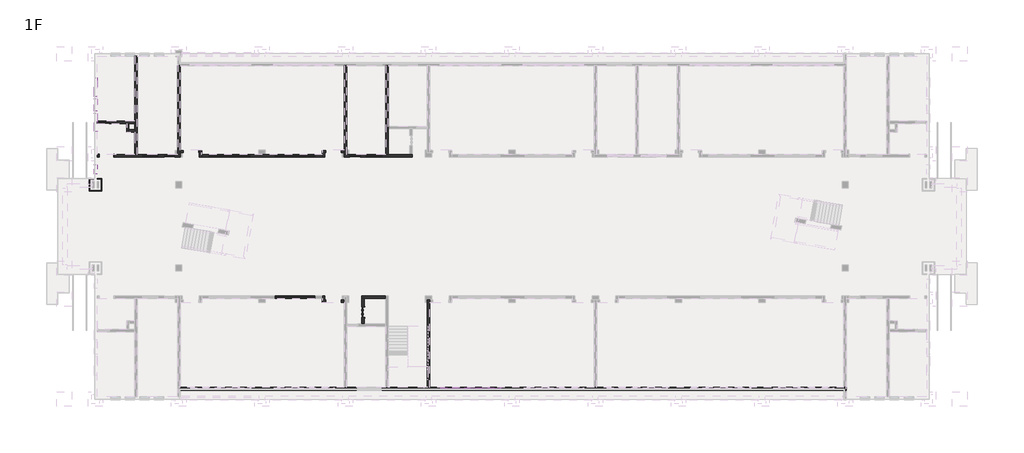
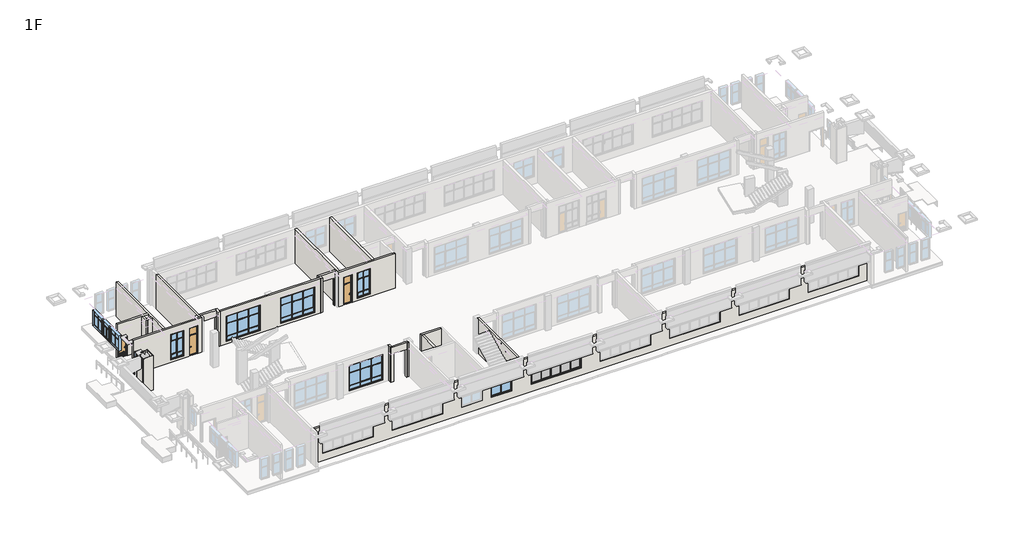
# One storey, part 2 of 16: 25 members, 25 walls, 10 windows, 8 plates, 5 doors.
"""IFC4 building model written with IfcOpenShell, lengths in millimetres."""

from ifc_helpers import new_model, si_unit, frame, origin, origin_with_axes, place, context, project, spatial, polyline, outline, extrude, faceted_brep, transform, mapped, element, save
from components import door_7422e6be, dk1_dk1_83e99b34, m2_m2_dfb05117, m2_m2_a1934b10, m3_m3_9c525ee5, member_7564be38, member_1f4d75dd, member_0b7842ad, member_163d5e45, member_ffafc35e, member_2b011958, member_9c26cac3, member_6c42befd, member_a374fdad, plate_f4dba16c, plate_1cc4df2b, plate_4fa5932a, plate_00f9c624, plate_18a10205, window_f154a97f, lc2_lc2_3adccf1d, lc4_lc4_8787b09e, lc5_lc5_223d64ff, lc5_lc5_9ec79463, lc6_lc6_03a52bd1, lc6_lc6_d9b30954, lc7_lc7_110692fb, lc7a_lc7a_17cb4d8c

model = new_model("IFC4")

# Units and contexts
model_context = context("Model", 3, world=origin())
ifc_project = project(units=[si_unit("LENGTHUNIT", "METRE", prefix="MILLI")], contexts=[model_context])

# Site, building, storey
site = spatial("IfcSite", under=ifc_project)
building = spatial("IfcBuilding", under=site)
storey = spatial("IfcBuildingStorey", under=building, Name="1F", Elevation=0.0)

# Doors
placement = place(None, origin())
door_shape = door_7422e6be(model_context)
element("IfcDoor", 1, ObjectType="FM(丙）1 : FM(丙）1", at=placement, inside=storey, context=model_context, shape_type="MappedRepresentation", body=[
    mapped(door_shape, transform((28700.0000027, 8349.6678362, 0.0), x_axis=(0.0, -1.0, 0.0), y_axis=(1.0, 0.0, 0.0), z_axis=(0.0, 0.0, 1.0))),
])
dk1_dk1_shape = dk1_dk1_83e99b34(model_context)
element("IfcDoor", 2, ObjectType="DK1 : DK1", at=placement, inside=storey, context=model_context, shape_type="MappedRepresentation", body=[
    mapped(dk1_dk1_shape, transform((4050.0, 23399.723093, 0.0), x_axis=(1.0, 0.0, 0.0), y_axis=(0.0, 1.0, 0.0), z_axis=(0.0, 0.0, 1.0))),
])
m2_m2_shape = m2_m2_dfb05117(model_context)
element("IfcDoor", 3, ObjectType="M2 : M2", at=placement, inside=storey, context=model_context, shape_type="MappedRepresentation", body=[
    mapped(m2_m2_shape, transform((27910.0000034, 23399.6954638, 0.0), x_axis=(1.0, 0.0, 0.0), y_axis=(0.0, 1.0, 0.0), z_axis=(0.0, 0.0, 1.0))),
])
m2_m2_2_shape = m2_m2_a1934b10(model_context)
element("IfcDoor", 4, ObjectType="M2 : M2", at=placement, inside=storey, context=model_context, shape_type="MappedRepresentation", body=[
    mapped(m2_m2_2_shape, transform((10109.9999985, 23399.723093, 0.0), x_axis=(-1.0, 0.0, 0.0), y_axis=(0.0, -1.0, 0.0), z_axis=(0.0, 0.0, 1.0))),
])
m3_m3_shape = m3_m3_9c525ee5(model_context)
element("IfcDoor", 5, ObjectType="M3 : M3", at=placement, inside=storey, context=model_context, shape_type="MappedRepresentation", body=[
    mapped(m3_m3_shape, transform((3809.9999978, 26599.2230983, 0.0), x_axis=(1.0, 0.0, 0.0), y_axis=(0.0, 1.0, 0.0), z_axis=(0.0, 0.0, 1.0))),
])

# Members
member_shape = member_7564be38(model_context)
element("IfcMember", 6, ObjectType="矩形竖梃 : 教学楼 – 矩形竖梃 – 100x150mm", at=placement, inside=storey, context=model_context, shape_type="MappedRepresentation", body=[
    mapped(member_shape, transform((41909.9999978, 1000.0, 3400.0), x_axis=(0.0, 0.0, 1.0), y_axis=(0.0, -1.0, 0.0), z_axis=(1.0, 0.0, 0.0))),
])
element("IfcMember", 7, ObjectType="矩形竖梃 : 教学楼 – 矩形竖梃 – 100x150mm", at=placement, inside=storey, context=model_context, shape_type="MappedRepresentation", body=[
    mapped(member_shape, transform((36109.9999978, 1000.0, 900.0), x_axis=(0.0, 0.0, -1.0), y_axis=(0.0, -1.0, 0.0), z_axis=(-1.0, 0.0, 0.0))),
])
member_2_shape = member_1f4d75dd(model_context)
element("IfcMember", 8, ObjectType="矩形竖梃 : 教学楼 – 矩形竖梃 – 50x150mm", at=placement, inside=storey, context=model_context, shape_type="MappedRepresentation", body=[
    mapped(member_2_shape, transform((38459.9999978, 1000.0, 1000.0), x_axis=(1.0, 0.0, 0.0), y_axis=(0.0, -1.0, 0.0), z_axis=(0.0, 0.0, -1.0))),
])
element("IfcMember", 9, ObjectType="矩形竖梃 : 教学楼 – 矩形竖梃 – 50x150mm", at=placement, inside=storey, context=model_context, shape_type="MappedRepresentation", body=[
    mapped(member_2_shape, transform((39559.9999978, 1000.0, 1000.0), x_axis=(1.0, 0.0, 0.0), y_axis=(0.0, -1.0, 0.0), z_axis=(0.0, 0.0, -1.0))),
])
member_3_shape = member_0b7842ad(model_context)
element("IfcMember", 10, ObjectType="矩形竖梃 : 教学楼 – 矩形竖梃 – 50x150mm", at=placement, inside=storey, context=model_context, shape_type="MappedRepresentation", body=[
    mapped(member_3_shape, transform((37309.9999978, 1000.0, 2450.0), x_axis=(0.0, 0.0, 1.0), y_axis=(0.0, -1.0, 0.0), z_axis=(1.0, 0.0, 0.0))),
])
member_4_shape = member_163d5e45(model_context)
element("IfcMember", 11, ObjectType="矩形竖梃 : 教学楼 – 矩形竖梃 – 50x150mm", at=placement, inside=storey, context=model_context, shape_type="MappedRepresentation", body=[
    mapped(member_4_shape, transform((38459.9999978, 1000.0, 2450.0), x_axis=(0.0, 0.0, 1.0), y_axis=(0.0, -1.0, 0.0), z_axis=(1.0, 0.0, 0.0))),
])
element("IfcMember", 12, ObjectType="矩形竖梃 : 教学楼 – 矩形竖梃 – 50x150mm", at=placement, inside=storey, context=model_context, shape_type="MappedRepresentation", body=[
    mapped(member_4_shape, transform((40709.9999978, 1000.0, 2450.0), x_axis=(0.0, 0.0, 1.0), y_axis=(0.0, -1.0, 0.0), z_axis=(1.0, 0.0, 0.0))),
])
element("IfcMember", 13, ObjectType="矩形竖梃 : 教学楼 – 矩形竖梃 – 50x150mm", at=placement, inside=storey, context=model_context, shape_type="MappedRepresentation", body=[
    mapped(member_3_shape, transform((39559.9999978, 1000.0, 2450.0), x_axis=(0.0, 0.0, 1.0), y_axis=(0.0, -1.0, 0.0), z_axis=(1.0, 0.0, 0.0))),
])
element("IfcMember", 14, ObjectType="矩形竖梃 : 教学楼 – 矩形竖梃 – 50x150mm", at=placement, inside=storey, context=model_context, shape_type="MappedRepresentation", body=[
    mapped(member_3_shape, transform((41809.9999978, 1000.0, 2450.0), x_axis=(0.0, 0.0, 1.0), y_axis=(0.0, -1.0, 0.0), z_axis=(1.0, 0.0, 0.0))),
])
member_5_shape = member_ffafc35e(model_context)
element("IfcMember", 15, ObjectType="矩形竖梃 : 教学楼 – 矩形竖梃 – 100x150mm", at=placement, inside=storey, context=model_context, shape_type="MappedRepresentation", body=[
    mapped(member_5_shape, transform((37309.9999978, 1000.0, 900.0), x_axis=(0.0, 0.0, -1.0), y_axis=(0.0, -1.0, 0.0), z_axis=(-1.0, 0.0, 0.0))),
])
member_6_shape = member_2b011958(model_context)
element("IfcMember", 16, ObjectType="矩形竖梃 : 教学楼 – 矩形竖梃 – 100x150mm", at=placement, inside=storey, context=model_context, shape_type="MappedRepresentation", body=[
    mapped(member_6_shape, transform((38459.9999978, 1000.0, 900.0), x_axis=(0.0, 0.0, -1.0), y_axis=(0.0, -1.0, 0.0), z_axis=(-1.0, 0.0, 0.0))),
])
element("IfcMember", 17, ObjectType="矩形竖梃 : 教学楼 – 矩形竖梃 – 100x150mm", at=placement, inside=storey, context=model_context, shape_type="MappedRepresentation", body=[
    mapped(member_5_shape, transform((39559.9999978, 1000.0, 900.0), x_axis=(0.0, 0.0, -1.0), y_axis=(0.0, -1.0, 0.0), z_axis=(-1.0, 0.0, 0.0))),
])
element("IfcMember", 18, ObjectType="矩形竖梃 : 教学楼 – 矩形竖梃 – 100x150mm", at=placement, inside=storey, context=model_context, shape_type="MappedRepresentation", body=[
    mapped(member_shape, transform((40709.9999978, 1000.0, 900.0), x_axis=(0.0, 0.0, -1.0), y_axis=(0.0, -1.0, 0.0), z_axis=(-1.0, 0.0, 0.0))),
])
element("IfcMember", 19, ObjectType="矩形竖梃 : 教学楼 – 矩形竖梃 – 100x150mm", at=placement, inside=storey, context=model_context, shape_type="MappedRepresentation", body=[
    mapped(member_shape, transform((37309.9999978, 1000.0, 3400.0), x_axis=(0.0, 0.0, 1.0), y_axis=(0.0, -1.0, 0.0), z_axis=(1.0, 0.0, 0.0))),
])
element("IfcMember", 20, ObjectType="矩形竖梃 : 教学楼 – 矩形竖梃 – 100x150mm", at=placement, inside=storey, context=model_context, shape_type="MappedRepresentation", body=[
    mapped(member_5_shape, transform((38459.9999978, 1000.0, 3400.0), x_axis=(0.0, 0.0, 1.0), y_axis=(0.0, -1.0, 0.0), z_axis=(1.0, 0.0, 0.0))),
])
element("IfcMember", 21, ObjectType="矩形竖梃 : 教学楼 – 矩形竖梃 – 100x150mm", at=placement, inside=storey, context=model_context, shape_type="MappedRepresentation", body=[
    mapped(member_5_shape, transform((40709.9999978, 1000.0, 3400.0), x_axis=(0.0, 0.0, 1.0), y_axis=(0.0, -1.0, 0.0), z_axis=(1.0, 0.0, 0.0))),
])
element("IfcMember", 22, ObjectType="矩形竖梃 : 教学楼 – 矩形竖梃 – 100x150mm", at=placement, inside=storey, context=model_context, shape_type="MappedRepresentation", body=[
    mapped(member_6_shape, transform((39559.9999978, 1000.0, 3400.0), x_axis=(0.0, 0.0, 1.0), y_axis=(0.0, -1.0, 0.0), z_axis=(1.0, 0.0, 0.0))),
])
member_7_shape = member_9c26cac3(model_context)
element("IfcMember", 23, ObjectType="矩形竖梃 : 教学楼 – 矩形竖梃 – 50x150mm", at=placement, inside=storey, context=model_context, shape_type="MappedRepresentation", body=[
    mapped(member_7_shape, transform((37309.9999978, 1000.0, 2475.0), x_axis=(1.0, 0.0, 0.0), y_axis=(0.0, -1.0, 0.0), z_axis=(0.0, 0.0, -1.0))),
])
element("IfcMember", 24, ObjectType="矩形竖梃 : 教学楼 – 矩形竖梃 – 50x150mm", at=placement, inside=storey, context=model_context, shape_type="MappedRepresentation", body=[
    mapped(member_7_shape, transform((38459.9999978, 1000.0, 2475.0), x_axis=(1.0, 0.0, 0.0), y_axis=(0.0, -1.0, 0.0), z_axis=(0.0, 0.0, -1.0))),
])
element("IfcMember", 25, ObjectType="矩形竖梃 : 教学楼 – 矩形竖梃 – 50x150mm", at=placement, inside=storey, context=model_context, shape_type="MappedRepresentation", body=[
    mapped(member_7_shape, transform((39559.9999978, 1000.0, 2475.0), x_axis=(1.0, 0.0, 0.0), y_axis=(0.0, -1.0, 0.0), z_axis=(0.0, 0.0, -1.0))),
])
element("IfcMember", 26, ObjectType="矩形竖梃 : 教学楼 – 矩形竖梃 – 50x150mm", at=placement, inside=storey, context=model_context, shape_type="MappedRepresentation", body=[
    mapped(member_7_shape, transform((40709.9999978, 1000.0, 2475.0), x_axis=(1.0, 0.0, 0.0), y_axis=(0.0, -1.0, 0.0), z_axis=(0.0, 0.0, -1.0))),
])
member_8_shape = member_6c42befd(model_context)
element("IfcMember", 27, ObjectType="矩形竖梃 : 教学楼 – 矩形竖梃 – 100x150mm", at=placement, inside=storey, context=model_context, shape_type="MappedRepresentation", body=[
    mapped(member_8_shape, transform((36109.9999978, 1000.0, 3300.0), x_axis=(-1.0, 0.0, 0.0), y_axis=(0.0, -1.0, 0.0), z_axis=(0.0, 0.0, 1.0))),
])
member_9_shape = member_a374fdad(model_context)
element("IfcMember", 28, ObjectType="矩形竖梃 : 教学楼 – 矩形竖梃 – 100x150mm", at=placement, inside=storey, context=model_context, shape_type="MappedRepresentation", body=[
    mapped(member_9_shape, transform((41909.9999978, 1000.0, 1000.0), x_axis=(1.0, 0.0, 0.0), y_axis=(0.0, -1.0, 0.0), z_axis=(0.0, 0.0, -1.0))),
])
element("IfcMember", 29, ObjectType="矩形竖梃 : 教学楼 – 矩形竖梃 – 100x150mm", at=placement, inside=storey, context=model_context, shape_type="MappedRepresentation", body=[
    mapped(member_8_shape, transform((41909.9999978, 1000.0, 2450.0), x_axis=(1.0, 0.0, 0.0), y_axis=(0.0, -1.0, 0.0), z_axis=(0.0, 0.0, -1.0))),
])
element("IfcMember", 30, ObjectType="矩形竖梃 : 教学楼 – 矩形竖梃 – 100x150mm", at=placement, inside=storey, context=model_context, shape_type="MappedRepresentation", body=[
    mapped(member_9_shape, transform((36109.9999978, 1000.0, 2450.0), x_axis=(-1.0, 0.0, 0.0), y_axis=(0.0, -1.0, 0.0), z_axis=(0.0, 0.0, 1.0))),
])

# Plates
plate_shape = plate_f4dba16c(model_context)
element("IfcPlate", 31, ObjectType="系统嵌板 : 玻璃", at=placement, inside=storey, context=model_context, shape_type="MappedRepresentation", body=[
    mapped(plate_shape, transform((39009.9999978, 1000.0, 1000.0), x_axis=(1.0, 0.0, 0.0), y_axis=(0.0, 1.0, 0.0), z_axis=(0.0, 0.0, 1.0))),
])
plate_2_shape = plate_1cc4df2b(model_context)
element("IfcPlate", 32, ObjectType="系统嵌板 : 玻璃", at=placement, inside=storey, context=model_context, shape_type="MappedRepresentation", body=[
    mapped(plate_2_shape, transform((36747.4999978, 1000.0, 2475.0), x_axis=(1.0, 0.0, 0.0), y_axis=(0.0, 1.0, 0.0), z_axis=(0.0, 0.0, 1.0))),
])
element("IfcPlate", 33, ObjectType="系统嵌板 : 玻璃", at=placement, inside=storey, context=model_context, shape_type="MappedRepresentation", body=[
    mapped(plate_2_shape, transform((41272.4999978, 1000.0, 2475.0), x_axis=(1.0, 0.0, 0.0), y_axis=(0.0, 1.0, 0.0), z_axis=(0.0, 0.0, 1.0))),
])
plate_3_shape = plate_4fa5932a(model_context)
element("IfcPlate", 34, ObjectType="系统嵌板 : 玻璃", at=placement, inside=storey, context=model_context, shape_type="MappedRepresentation", body=[
    mapped(plate_3_shape, transform((37884.9999978, 1000.0, 2475.0), x_axis=(1.0, 0.0, 0.0), y_axis=(0.0, 1.0, 0.0), z_axis=(0.0, 0.0, 1.0))),
])
element("IfcPlate", 35, ObjectType="系统嵌板 : 玻璃", at=placement, inside=storey, context=model_context, shape_type="MappedRepresentation", body=[
    mapped(plate_3_shape, transform((40134.9999978, 1000.0, 2475.0), x_axis=(1.0, 0.0, 0.0), y_axis=(0.0, 1.0, 0.0), z_axis=(0.0, 0.0, 1.0))),
])
plate_4_shape = plate_00f9c624(model_context)
element("IfcPlate", 36, ObjectType="系统嵌板 : 玻璃", at=placement, inside=storey, context=model_context, shape_type="MappedRepresentation", body=[
    mapped(plate_4_shape, transform((39009.9999978, 1000.0, 2475.0), x_axis=(1.0, 0.0, 0.0), y_axis=(0.0, 1.0, 0.0), z_axis=(0.0, 0.0, 1.0))),
])
plate_5_shape = plate_18a10205(model_context)
element("IfcPlate", 37, ObjectType="教学楼 - 窗嵌板：双扇推拉窗 : 教学楼 - 窗嵌板：双扇推拉窗", at=placement, inside=storey, context=model_context, shape_type="MappedRepresentation", body=[
    mapped(plate_5_shape, transform((37322.4999978, 1000.0, 1000.0), x_axis=(1.0, 0.0, 0.0), y_axis=(0.0, 1.0, 0.0), z_axis=(0.0, 0.0, 1.0))),
])
element("IfcPlate", 38, ObjectType="教学楼 - 窗嵌板：双扇推拉窗 : 教学楼 - 窗嵌板：双扇推拉窗", at=placement, inside=storey, context=model_context, shape_type="MappedRepresentation", body=[
    mapped(plate_5_shape, transform((40697.4999978, 1000.0, 1000.0), x_axis=(1.0, 0.0, 0.0), y_axis=(0.0, 1.0, 0.0), z_axis=(0.0, 0.0, 1.0))),
])

# Walls
element("IfcWall", 39, ObjectType="教学楼 – 文化石外墙 – 200mm", at=placement, inside=storey, context=model_context, shape_type="Brep", body=[
    faceted_brep([(11153.0, 865.0, 0.0), (74847.0, 865.0, 0.0), (75117.0, 865.0, 0.0), (75117.0, 865.0, 4200.0), (74847.0, 865.0, 4200.0), (11153.0, 865.0, 4200.0), (68109.9999985, 865.0, 900.0), (68109.9999985, 865.0, 3400.0), (73909.9999985, 865.0, 3400.0), (73909.9999985, 865.0, 900.0), (60109.9999985, 865.0, 900.0), (60109.9999985, 865.0, 3400.0), (65909.9999985, 865.0, 3400.0), (65909.9999985, 865.0, 900.0), (52109.9999985, 865.0, 900.0), (52109.9999985, 865.0, 3400.0), (57909.9999985, 865.0, 3400.0), (57909.9999985, 865.0, 900.0), (44109.9999978, 865.0, 900.0), (44109.9999978, 865.0, 3400.0), (49909.9999978, 865.0, 3400.0), (49909.9999978, 865.0, 900.0), (36109.9999978, 865.0, 900.0), (36109.9999978, 865.0, 3400.0), (41909.9999978, 865.0, 3400.0), (41909.9999978, 865.0, 900.0), (20109.9999985, 865.0, 900.0), (20109.9999985, 865.0, 3400.0), (25909.9999985, 865.0, 3400.0), (25909.9999985, 865.0, 900.0), (12109.9999985, 865.0, 900.0), (12109.9999985, 865.0, 3400.0), (17909.9999985, 865.0, 3400.0), (17909.9999985, 865.0, 900.0), (31509.9999978, 865.0, 900.0), (31509.9999978, 865.0, 3400.0), (33909.9999978, 865.0, 3400.0), (33909.9999978, 865.0, 900.0), (30509.9999978, 865.0, 3400.0), (30509.9999978, 865.0, 900.0), (28109.9999978, 865.0, 900.0), (28109.9999978, 865.0, 3400.0), (75117.0, 1135.0, 0.0), (74883.0, 1135.0, 0.0), (51117.0, 1135.0, 0.0), (50883.0, 1135.0, 0.0), (35117.0, 1135.0, 0.0), (34883.0, 1135.0, 0.0), (31117.0000029, 1135.0, 0.0), (30883.0000029, 1135.0, 0.0), (27117.0, 1135.0, 0.0), (26883.0, 1135.0, 0.0), (11153.0, 1135.0, 0.0), (11153.0, 1135.0, 4200.0), (26883.0, 1135.0, 4200.0), (27117.0, 1135.0, 4200.0), (30883.0000029, 1135.0, 4200.0), (31117.0000029, 1135.0, 4200.0), (34883.0, 1135.0, 4200.0), (35117.0, 1135.0, 4200.0), (50883.0, 1135.0, 4200.0), (51117.0, 1135.0, 4200.0), (74883.0, 1135.0, 4200.0), (75117.0, 1135.0, 4200.0), (68109.9999985, 1135.0, 3400.0), (68109.9999985, 1135.0, 900.0), (73909.9999985, 1135.0, 900.0), (73909.9999985, 1135.0, 3400.0), (60109.9999985, 1135.0, 3400.0), (60109.9999985, 1135.0, 900.0), (65909.9999985, 1135.0, 900.0), (65909.9999985, 1135.0, 3400.0), (52109.9999985, 1135.0, 3400.0), (52109.9999985, 1135.0, 900.0), (57909.9999985, 1135.0, 900.0), (57909.9999985, 1135.0, 3400.0), (44109.9999978, 1135.0, 3400.0), (44109.9999978, 1135.0, 900.0), (49909.9999978, 1135.0, 900.0), (49909.9999978, 1135.0, 3400.0), (36109.9999978, 1135.0, 3400.0), (36109.9999978, 1135.0, 900.0), (41909.9999978, 1135.0, 900.0), (41909.9999978, 1135.0, 3400.0), (20109.9999985, 1135.0, 3400.0), (20109.9999985, 1135.0, 900.0), (25909.9999985, 1135.0, 900.0), (25909.9999985, 1135.0, 3400.0), (12109.9999985, 1135.0, 3400.0), (12109.9999985, 1135.0, 900.0), (17909.9999985, 1135.0, 900.0), (17909.9999985, 1135.0, 3400.0), (31509.9999978, 1135.0, 3400.0), (31509.9999978, 1135.0, 900.0), (33909.9999978, 1135.0, 900.0), (33909.9999978, 1135.0, 3400.0), (30509.9999978, 1135.0, 900.0), (30509.9999978, 1135.0, 3400.0), (28109.9999978, 1135.0, 3400.0), (28109.9999978, 1135.0, 900.0)], [[[0, 1, 2, 3, 4, 5], [6, 7, 8, 9], [10, 11, 12, 13], [14, 15, 16, 17], [18, 19, 20, 21], [22, 23, 24, 25], [26, 27, 28, 29], [30, 31, 32, 33], [34, 35, 36, 37], [38, 39, 40, 41]], [[42, 43, 44, 45, 46, 47, 48, 49, 50, 51, 52, 53, 54, 55, 56, 57, 58, 59, 60, 61, 62, 63], [64, 65, 66, 67], [68, 69, 70, 71], [72, 73, 74, 75], [76, 77, 78, 79], [80, 81, 82, 83], [84, 85, 86, 87], [88, 89, 90, 91], [92, 93, 94, 95], [96, 97, 98, 99]], [[2, 1, 0, 52, 51, 50, 49, 48, 47, 46, 45, 44, 43, 42]], [[5, 4, 3, 63, 62, 61, 60, 59, 58, 57, 56, 55, 54, 53]], [[0, 5, 53, 52]], [[3, 2, 42, 63]], [[6, 65, 64, 7]], [[7, 64, 67, 8]], [[8, 67, 66, 9]], [[65, 6, 9, 66]], [[10, 69, 68, 11]], [[11, 68, 71, 12]], [[12, 71, 70, 13]], [[69, 10, 13, 70]], [[14, 73, 72, 15]], [[15, 72, 75, 16]], [[16, 75, 74, 17]], [[73, 14, 17, 74]], [[18, 77, 76, 19]], [[19, 76, 79, 20]], [[20, 79, 78, 21]], [[77, 18, 21, 78]], [[22, 81, 80, 23]], [[23, 80, 83, 24]], [[24, 83, 82, 25]], [[81, 22, 25, 82]], [[26, 85, 84, 27]], [[27, 84, 87, 28]], [[28, 87, 86, 29]], [[85, 26, 29, 86]], [[30, 89, 88, 31]], [[31, 88, 91, 32]], [[32, 91, 90, 33]], [[89, 30, 33, 90]], [[35, 34, 93, 92]], [[36, 35, 92, 95]], [[37, 36, 95, 94]], [[34, 37, 94, 93]], [[97, 96, 39, 38]], [[98, 97, 38, 41]], [[99, 98, 41, 40]], [[96, 99, 40, 39]]]),
])
element("IfcWall", 40, ObjectType="教学楼 – 涂料内墙 – 200mm", at=placement, inside=storey, context=model_context, shape_type="Brep", body=[
    faceted_brep([(10883.0, 32065.0, 0.0), (10883.0, 23916.723093, 0.0), (10883.0, 23516.723093, 0.0), (10883.0, 23516.723093, 4200.0), (10883.0, 23916.723093, 4200.0), (10883.0, 32065.0, 4200.0), (11117.0, 32065.0, 0.0), (11117.0, 32065.0, 4200.0), (11117.0, 23916.7231012, 4200.0), (11117.0, 23682.7231012, 4200.0), (11117.0, 23516.723093, 4200.0), (11117.0, 23516.723093, 0.0), (11117.0, 23682.7231012, 0.0), (11117.0, 23916.7231012, 0.0)], [[[0, 1, 2, 3, 4, 5]], [[6, 7, 8, 9, 10, 11, 12, 13]], [[2, 1, 0, 6, 13, 12, 11]], [[5, 4, 3, 10, 9, 8, 7]], [[0, 5, 7, 6]], [[3, 2, 11, 10]]]),
])
element("IfcWall", 41, ObjectType="教学楼 – 涂料内墙 – 200mm", at=placement, inside=storey, context=model_context, shape_type="Brep", body=[
    faceted_brep([(6783.0000003, 32982.6954639, 0.0), (6783.0000003, 26716.2230983, 0.0), (6783.0000003, 26482.2230983, 0.0), (6783.0000003, 25916.2231012, 0.0), (6783.0000003, 25682.2231012, 0.0), (6783.0000003, 23516.723093, 0.0), (6783.0000003, 23516.723093, 4200.0), (6783.0000003, 25682.2231012, 4200.0), (6783.0000003, 25916.2231012, 4200.0), (6783.0000003, 26482.2230983, 4200.0), (6783.0000003, 26716.2230983, 4200.0), (6783.0000003, 32982.6954639, 4200.0), (7017.0000003, 32982.6954639, 0.0), (7017.0000003, 32982.6954639, 4200.0), (7017.0000003, 23516.723093, 4200.0), (7017.0000003, 23516.723093, 0.0)], [[[0, 1, 2, 3, 4, 5, 6, 7, 8, 9, 10, 11]], [[12, 13, 14, 15]], [[5, 4, 3, 2, 1, 0, 12, 15]], [[11, 10, 9, 8, 7, 6, 14, 13]], [[6, 5, 15, 14]], [[0, 11, 13, 12]]]),
])
element("IfcWall", 42, ObjectType="教学楼 – 涂料内墙 – 200mm", at=placement, inside=storey, context=model_context, shape_type="Brep", body=[
    faceted_brep([(26883.0, 32065.0, 0.0), (26883.0, 23917.0, 0.0), (26883.0, 23916.7231007, 0.0), (26883.0, 23682.7231007, 0.0), (26883.0, 23516.6954638, 0.0), (26883.0, 23516.6954638, 4200.0), (26883.0, 23682.7231007, 4200.0), (26883.0, 23916.7231007, 4200.0), (26883.0, 23917.0, 4200.0), (26883.0, 32065.0, 4200.0), (27117.0, 32065.0, 0.0), (27117.0, 32065.0, 4200.0), (27117.0, 23917.0, 4200.0), (27117.0, 23516.6954638, 4200.0), (27117.0, 23516.6954638, 0.0), (27117.0, 23917.0, 0.0)], [[[0, 1, 2, 3, 4, 5, 6, 7, 8, 9]], [[10, 11, 12, 13, 14, 15]], [[4, 3, 2, 1, 0, 10, 15, 14]], [[9, 8, 7, 6, 5, 13, 12, 11]], [[5, 4, 14, 13]], [[0, 9, 11, 10]]]),
])
element("IfcWall", 43, ObjectType="教学楼 – 涂料内墙 – 200mm", at=placement, inside=storey, context=model_context, shape_type="Brep", body=[
    faceted_brep([(30883.0000029, 32065.0, 0.0), (30883.0000029, 23516.6954638, 0.0), (30883.0000029, 23516.6954638, 4200.0), (30883.0000029, 32065.0, 4200.0), (31117.0000029, 32065.0, 0.0), (31117.0000029, 32065.0, 4200.0), (31117.0000029, 26216.6954638, 4200.0), (31117.0000029, 25982.6954638, 4200.0), (31117.0000029, 23516.6954638, 4200.0), (31117.0000029, 23516.6954638, 0.0), (31117.0000029, 25982.6954638, 0.0), (31117.0000029, 26216.6954638, 0.0)], [[[0, 1, 2, 3]], [[4, 5, 6, 7, 8, 9, 10, 11]], [[1, 0, 4, 11, 10, 9]], [[3, 2, 8, 7, 6, 5]], [[2, 1, 9, 8]], [[0, 3, 5, 4]]]),
])
element("IfcWall", 44, ObjectType="教学楼 – 涂料内墙 – 200mm", at=placement, inside=storey, context=model_context, shape_type="Brep", body=[
    faceted_brep([(33417.0000031, 23282.6954638, 4200.0), (26883.0, 23282.6954638, 4200.0), (26883.0, 23282.6954638, 0.0), (27410.0000034, 23282.6954638, 0.0), (27410.0000034, 23282.6954638, 3400.0), (28410.0000034, 23282.6954638, 3400.0), (28410.0000034, 23282.6954638, 0.0), (33417.0000031, 23282.6954638, 0.0), (30509.9999997, 23282.6954638, 3400.0), (30509.9999997, 23282.6954638, 300.0), (29009.9999997, 23282.6954638, 300.0), (29009.9999997, 23282.6954638, 3400.0), (26883.0, 23516.6954638, 4200.0), (27117.0, 23516.6954638, 4200.0), (27317.0, 23516.6954638, 4200.0), (30883.0000029, 23516.6954638, 4200.0), (31117.0000029, 23516.6954638, 4200.0), (33183.0000031, 23516.6954638, 4200.0), (33417.0000031, 23516.6954638, 4200.0), (33417.0000031, 23516.6954638, 0.0), (33183.0000031, 23516.6954638, 0.0), (31117.0000029, 23516.6954638, 0.0), (30883.0000029, 23516.6954638, 0.0), (28410.0000034, 23516.6954638, 0.0), (28410.0000034, 23516.6954638, 3400.0), (27410.0000034, 23516.6954638, 3400.0), (27410.0000034, 23516.6954638, 0.0), (27317.0, 23516.6954638, 0.0), (27117.0, 23516.6954638, 0.0), (26883.0, 23516.6954638, 0.0), (30509.9999997, 23516.6954638, 300.0), (30509.9999997, 23516.6954638, 3400.0), (29009.9999997, 23516.6954638, 3400.0), (29009.9999997, 23516.6954638, 300.0), (26883.0, 23283.0, 0.0), (26883.0, 23283.0, 4200.0)], [[[0, 1, 2, 3, 4, 5, 6, 7], [8, 9, 10, 11]], [[12, 13, 14, 15, 16, 17, 18, 19, 20, 21, 22, 23, 24, 25, 26, 27, 28, 29], [30, 31, 32, 33]], [[19, 7, 6, 23, 22, 21, 20]], [[2, 34, 29, 28, 27, 26, 3]], [[1, 0, 18, 17, 16, 15, 14, 13, 12, 35]], [[0, 7, 19, 18]], [[2, 1, 35, 12, 29, 34]], [[31, 30, 9, 8]], [[32, 31, 8, 11]], [[33, 32, 11, 10]], [[30, 33, 10, 9]], [[5, 24, 23, 6]], [[24, 5, 4, 25]], [[25, 4, 3, 26]]]),
])
element("IfcWall", 45, ObjectType="教学楼 – 涂料内墙 – 200mm", at=placement, inside=storey, context=model_context, shape_type="Brep", body=[
    faceted_brep([(24782.9999964, 23916.7231007, 4200.0), (26683.0, 23916.7231007, 4200.0), (26883.0, 23916.7231007, 4200.0), (26883.0, 23916.7231007, 0.0), (26683.0, 23916.7231007, 0.0), (26609.9999954, 23916.7231007, 0.0), (26609.9999954, 23916.7231007, 3400.0), (25109.9999954, 23916.7231007, 3400.0), (25109.9999954, 23916.7231007, 0.0), (24782.9999964, 23916.7231007, 0.0), (26883.0, 23682.7231007, 4200.0), (26683.0, 23682.7231007, 4200.0), (25016.9999964, 23682.7231007, 4200.0), (24782.9999964, 23682.7231007, 4200.0), (24782.9999964, 23682.7231007, 0.0), (25016.9999964, 23682.7231007, 0.0), (25109.9999954, 23682.7231007, 0.0), (25109.9999954, 23682.7231007, 3400.0), (26609.9999954, 23682.7231007, 3400.0), (26609.9999954, 23682.7231007, 0.0), (26683.0, 23682.7231007, 0.0), (26883.0, 23682.7231007, 0.0)], [[[0, 1, 2, 3, 4, 5, 6, 7, 8, 9]], [[10, 11, 12, 13, 14, 15, 16, 17, 18, 19, 20, 21]], [[14, 9, 8, 16, 15]], [[3, 21, 20, 19, 5, 4]], [[2, 1, 0, 13, 12, 11, 10]], [[0, 9, 14, 13]], [[3, 2, 10, 21]], [[7, 17, 16, 8]], [[17, 7, 6, 18]], [[18, 6, 5, 19]]]),
])
element("IfcWall", 46, ObjectType="教学楼 – 涂料内墙 – 200mm", at=placement, inside=storey, context=model_context, shape_type="Brep", body=[
    faceted_brep([(24782.9999964, 23682.7231007, 0.0), (24782.9999964, 23516.6954641, 0.0), (24782.9999964, 23282.6954641, 0.0), (24782.9999964, 23282.6954641, 4200.0), (24782.9999964, 23516.6954641, 4200.0), (24782.9999964, 23682.7231007, 4200.0), (25016.9999964, 23682.7231007, 0.0), (25016.9999964, 23682.7231007, 4200.0), (25016.9999964, 23282.6954641, 4200.0), (25016.9999964, 23282.6954641, 0.0)], [[[0, 1, 2, 3, 4, 5]], [[6, 7, 8, 9]], [[2, 1, 0, 6, 9]], [[5, 4, 3, 8, 7]], [[0, 5, 7, 6]], [[3, 2, 9, 8]]]),
])
element("IfcWall", 47, ObjectType="教学楼 – 涂料内墙 – 200mm", at=placement, inside=storey, context=model_context, shape_type="Brep", body=[
    faceted_brep([(24782.9999964, 23516.6954641, 0.0), (19317.0, 23516.6954641, 0.0), (18683.0, 23516.6954641, 0.0), (13216.9999996, 23516.6954641, 0.0), (13216.9999996, 23516.6954641, 4200.0), (18683.0, 23516.6954641, 4200.0), (19317.0, 23516.6954641, 4200.0), (24782.9999964, 23516.6954641, 4200.0), (24109.9999995, 23516.6954641, 300.0), (24109.9999995, 23516.6954641, 3400.0), (20209.9999995, 23516.6954641, 3400.0), (20209.9999995, 23516.6954641, 300.0), (17809.9999995, 23516.6954641, 300.0), (17809.9999995, 23516.6954641, 3400.0), (13909.9999995, 23516.6954641, 3400.0), (13909.9999995, 23516.6954641, 300.0), (24782.9999964, 23282.6954641, 0.0), (24782.9999964, 23282.6954641, 4200.0), (13216.9999996, 23282.6954641, 4200.0), (13216.9999996, 23282.6954641, 0.0), (24109.9999995, 23282.6954641, 300.0), (20209.9999995, 23282.6954641, 300.0), (20209.9999995, 23282.6954641, 3400.0), (24109.9999995, 23282.6954641, 3400.0), (17809.9999995, 23282.6954641, 300.0), (13909.9999995, 23282.6954641, 300.0), (13909.9999995, 23282.6954641, 3400.0), (17809.9999995, 23282.6954641, 3400.0)], [[[0, 1, 2, 3, 4, 5, 6, 7], [8, 9, 10, 11], [12, 13, 14, 15]], [[16, 17, 18, 19], [20, 21, 22, 23], [24, 25, 26, 27]], [[3, 2, 1, 0, 16, 19]], [[7, 6, 5, 4, 18, 17]], [[0, 7, 17, 16]], [[4, 3, 19, 18]], [[9, 8, 20, 23]], [[10, 9, 23, 22]], [[11, 10, 22, 21]], [[8, 11, 21, 20]], [[13, 12, 24, 27]], [[14, 13, 27, 26]], [[15, 14, 26, 25]], [[12, 15, 25, 24]]]),
])
element("IfcWall", 48, ObjectType="教学楼 – 涂料内墙 – 200mm", at=placement, inside=storey, context=model_context, shape_type="Brep", body=[
    faceted_brep([(13216.9999996, 23282.6954641, 0.0), (13216.9999996, 23516.6954641, 0.0), (13216.9999996, 23916.7231012, 0.0), (13216.9999996, 23916.7231012, 4200.0), (13216.9999996, 23516.6954641, 4200.0), (13216.9999996, 23282.6954641, 4200.0), (12982.9999996, 23282.6954641, 0.0), (12982.9999996, 23282.6954641, 4200.0), (12982.9999996, 23682.7231012, 4200.0), (12982.9999996, 23916.7231012, 4200.0), (12982.9999996, 23916.7231012, 0.0), (12982.9999996, 23682.7231012, 0.0)], [[[0, 1, 2, 3, 4, 5]], [[6, 7, 8, 9, 10, 11]], [[2, 1, 0, 6, 11, 10]], [[5, 4, 3, 9, 8, 7]], [[3, 2, 10, 9]], [[0, 5, 7, 6]]]),
])
element("IfcWall", 49, ObjectType="教学楼 – 涂料内墙 – 200mm", at=placement, inside=storey, context=model_context, shape_type="Brep", body=[
    faceted_brep([(11117.0, 23916.7231012, 4200.0), (12982.9999996, 23916.7231012, 4200.0), (12982.9999996, 23916.7231012, 0.0), (12909.9999995, 23916.7231012, 0.0), (12909.9999995, 23916.7231012, 3400.0), (11409.9999995, 23916.7231012, 3400.0), (11409.9999995, 23916.7231012, 0.0), (11117.0, 23916.7231012, 0.0), (12982.9999996, 23682.7231012, 4200.0), (11317.0, 23682.7231012, 4200.0), (11117.0, 23682.7231012, 4200.0), (11117.0, 23682.7231012, 0.0), (11317.0, 23682.7231012, 0.0), (11409.9999995, 23682.7231012, 0.0), (11409.9999995, 23682.7231012, 3400.0), (12909.9999995, 23682.7231012, 3400.0), (12909.9999995, 23682.7231012, 0.0), (12982.9999996, 23682.7231012, 0.0)], [[[0, 1, 2, 3, 4, 5, 6, 7]], [[8, 9, 10, 11, 12, 13, 14, 15, 16, 17]], [[2, 17, 16, 3]], [[11, 7, 6, 13, 12]], [[1, 0, 10, 9, 8]], [[2, 1, 8, 17]], [[0, 7, 11, 10]], [[5, 14, 13, 6]], [[14, 5, 4, 15]], [[15, 4, 3, 16]]]),
])
element("IfcWall", 50, ObjectType="教学楼 – 涂料内墙 – 200mm", at=placement, inside=storey, context=model_context, shape_type="Brep", body=[
    faceted_brep([(11117.0, 23282.723093, 4200.0), (3167.0000002, 23282.723093, 4200.0), (3167.0000002, 23282.723093, 0.0), (3300.0, 23282.723093, 0.0), (3300.0, 23282.723093, 2400.0), (4800.0, 23282.723093, 2400.0), (4800.0, 23282.723093, 0.0), (9609.9999985, 23282.723093, 0.0), (9609.9999985, 23282.723093, 3400.0), (10609.9999985, 23282.723093, 3400.0), (10609.9999985, 23282.723093, 0.0), (11117.0, 23282.723093, 0.0), (7510.0000043, 23282.723093, 300.0), (7510.0000043, 23282.723093, 3400.0), (9010.0000043, 23282.723093, 3400.0), (9010.0000043, 23282.723093, 300.0), (3167.0000002, 23516.723093, 4200.0), (3300.0, 23516.723093, 4200.0), (6783.0000003, 23516.723093, 4200.0), (7017.0000003, 23516.723093, 4200.0), (10683.0, 23516.723093, 4200.0), (10883.0, 23516.723093, 4200.0), (11117.0, 23516.723093, 4200.0), (11117.0, 23516.723093, 0.0), (10883.0, 23516.723093, 0.0), (10683.0, 23516.723093, 0.0), (10609.9999985, 23516.723093, 0.0), (10609.9999985, 23516.723093, 3400.0), (9609.9999985, 23516.723093, 3400.0), (9609.9999985, 23516.723093, 0.0), (7017.0000003, 23516.723093, 0.0), (6783.0000003, 23516.723093, 0.0), (4800.0, 23516.723093, 0.0), (4800.0, 23516.723093, 2400.0), (3300.0, 23516.723093, 2400.0), (3300.0, 23516.723093, 0.0), (3167.0000002, 23516.723093, 0.0), (7510.0000043, 23516.723093, 300.0), (9010.0000043, 23516.723093, 300.0), (9010.0000043, 23516.723093, 3400.0), (7510.0000043, 23516.723093, 3400.0), (3167.0000002, 23300.0, 0.0), (3300.0, 23300.0, 0.0)], [[[0, 1, 2, 3, 4, 5, 6, 7, 8, 9, 10, 11], [12, 13, 14, 15]], [[16, 17, 18, 19, 20, 21, 22, 23, 24, 25, 26, 27, 28, 29, 30, 31, 32, 33, 34, 35, 36], [37, 38, 39, 40]], [[23, 11, 10, 26, 25, 24]], [[6, 32, 31, 30, 29, 7]], [[2, 41, 36, 35, 42, 3]], [[1, 0, 22, 21, 20, 19, 18, 17, 16]], [[0, 11, 23, 22]], [[2, 1, 16, 36, 41]], [[5, 33, 32, 6]], [[33, 5, 4, 34]], [[34, 4, 3, 42, 35]], [[28, 8, 7, 29]], [[8, 28, 27, 9]], [[9, 27, 26, 10]], [[13, 12, 37, 40]], [[14, 13, 40, 39]], [[15, 14, 39, 38]], [[12, 15, 38, 37]]]),
])
element("IfcWall", 51, ObjectType="教学楼 – 涂料内墙 – 200mm", at=placement, inside=storey, context=model_context, shape_type="Brep", body=[
    faceted_brep([(3167.0000002, 26716.2230983, 4200.0), (6783.0000003, 26716.2230983, 4200.0), (6783.0000003, 26716.2230983, 0.0), (4309.9999978, 26716.2230983, 0.0), (4309.9999978, 26716.2230983, 2300.0), (3309.9999978, 26716.2230983, 2300.0), (3309.9999978, 26716.2230983, 0.0), (3167.0000002, 26716.2230983, 0.0), (6783.0000003, 26482.2230983, 4200.0), (6217.0000019, 26482.2230983, 4200.0), (5983.0000019, 26482.2230983, 4200.0), (3167.0000002, 26482.2230983, 4200.0), (3167.0000002, 26482.2230983, 0.0), (3309.9999978, 26482.2230983, 0.0), (3309.9999978, 26482.2230983, 2300.0), (4309.9999978, 26482.2230983, 2300.0), (4309.9999978, 26482.2230983, 0.0), (5983.0000019, 26482.2230983, 0.0), (6217.0000019, 26482.2230983, 0.0), (6783.0000003, 26482.2230983, 0.0)], [[[0, 1, 2, 3, 4, 5, 6, 7]], [[8, 9, 10, 11, 12, 13, 14, 15, 16, 17, 18, 19]], [[2, 19, 18, 17, 16, 3]], [[12, 7, 6, 13]], [[1, 0, 11, 10, 9, 8]], [[2, 1, 8, 19]], [[0, 7, 12, 11]], [[15, 4, 3, 16]], [[4, 15, 14, 5]], [[5, 14, 13, 6]]]),
])
element("IfcWall", 52, ObjectType="教学楼 – 涂料内墙 – 200mm", at=placement, inside=storey, context=model_context, shape_type="Brep", body=[
    faceted_brep([(6217.0000019, 25682.2231012, 0.0), (6217.0000019, 25916.2231012, 0.0), (6217.0000019, 26482.2230983, 0.0), (6217.0000019, 26482.2230983, 4200.0), (6217.0000019, 25916.2231012, 4200.0), (6217.0000019, 25682.2231012, 4200.0), (5983.0000019, 25682.2231012, 0.0), (5983.0000019, 25682.2231012, 4200.0), (5983.0000019, 26482.2230983, 4200.0), (5983.0000019, 26482.2230983, 0.0)], [[[0, 1, 2, 3, 4, 5]], [[6, 7, 8, 9]], [[2, 1, 0, 6, 9]], [[5, 4, 3, 8, 7]], [[0, 5, 7, 6]], [[3, 2, 9, 8]]]),
])
element("IfcWall", 53, ObjectType="教学楼 – 涂料内墙 – 200mm", at=placement, inside=storey, context=model_context, shape_type="SweptSolid", body=[
    extrude(outline(polyline([(6217.0000019, 25916.2231012), (6783.0000003, 25916.2231012), (6783.0000003, 25682.2231012), (6217.0000019, 25682.2231012), (6217.0000019, 25916.2231012)])), origin_with_axes(), (0.0, 0.0, 1.0), 4200.0),
])
element("IfcWall", 54, ObjectType="教学楼 – 涂料内墙 – 200mm", at=placement, inside=storey, context=model_context, shape_type="Brep", body=[
    faceted_brep([(35117.0, 1135.0, 0.0), (35117.0, 9283.0, 0.0), (35117.0, 9283.2768988, 0.0), (35117.0, 9517.2768988, 0.0), (35117.0, 9517.2768988, 4200.0), (35117.0, 9283.2768988, 4200.0), (35117.0, 9283.0, 4200.0), (35117.0, 1135.0, 4200.0), (34883.0, 1135.0, 0.0), (34883.0, 1135.0, 4200.0), (34883.0, 9283.0, 4200.0), (34883.0, 9517.2768988, 4200.0), (34883.0, 9517.2768988, 0.0), (34883.0, 9283.0, 0.0)], [[[0, 1, 2, 3, 4, 5, 6, 7]], [[8, 9, 10, 11, 12, 13]], [[3, 2, 1, 0, 8, 13, 12]], [[7, 6, 5, 4, 11, 10, 9]], [[4, 3, 12, 11]], [[0, 7, 9, 8]]]),
])
element("IfcWall", 55, ObjectType="教学楼 – 涂料内墙 – 200mm", at=placement, inside=storey, context=model_context, shape_type="Brep", body=[
    faceted_brep([(28583.0000027, 9683.3045362, 0.0), (28817.0000027, 9683.3045362, 0.0), (30883.0000029, 9683.3045362, 0.0), (30883.0000029, 9683.3045362, 4200.0), (28817.0000027, 9683.3045362, 4200.0), (28583.0000027, 9683.3045362, 4200.0), (28583.0000027, 9917.3045362, 0.0), (28583.0000027, 9917.3045362, 4200.0), (30883.0000029, 9917.3045362, 4200.0), (30883.0000029, 9917.3045362, 0.0)], [[[0, 1, 2, 3, 4, 5]], [[6, 7, 8, 9]], [[2, 1, 0, 6, 9]], [[5, 4, 3, 8, 7]], [[3, 2, 9, 8]], [[0, 5, 7, 6]]]),
])
element("IfcWall", 56, ObjectType="教学楼 – 涂料内墙 – 200mm", at=placement, inside=storey, context=model_context, shape_type="Brep", body=[
    faceted_brep([(24782.9999964, 9517.2768993, 4200.0), (25016.9999964, 9517.2768993, 4200.0), (26683.0, 9517.2768993, 4200.0), (26883.0, 9517.2768993, 4200.0), (26883.0, 9517.2768993, 0.0), (26683.0, 9517.2768993, 0.0), (26609.9999976, 9517.2768993, 0.0), (26609.9999976, 9517.2768993, 3400.0), (25109.9999976, 9517.2768993, 3400.0), (25109.9999976, 9517.2768993, 0.0), (25016.9999964, 9517.2768993, 0.0), (24782.9999964, 9517.2768993, 0.0), (26883.0, 9283.2768993, 4200.0), (26683.0, 9283.2768993, 4200.0), (24782.9999964, 9283.2768993, 4200.0), (24782.9999964, 9283.2768993, 0.0), (25109.9999976, 9283.2768993, 0.0), (25109.9999976, 9283.2768993, 3400.0), (26609.9999976, 9283.2768993, 3400.0), (26609.9999976, 9283.2768993, 0.0), (26683.0, 9283.2768993, 0.0), (26883.0, 9283.2768993, 0.0)], [[[0, 1, 2, 3, 4, 5, 6, 7, 8, 9, 10, 11]], [[12, 13, 14, 15, 16, 17, 18, 19, 20, 21]], [[15, 11, 10, 9, 16]], [[4, 21, 20, 19, 6, 5]], [[3, 2, 1, 0, 14, 13, 12]], [[0, 11, 15, 14]], [[4, 3, 12, 21]], [[18, 7, 6, 19]], [[7, 18, 17, 8]], [[8, 17, 16, 9]]]),
])
element("IfcWall", 57, ObjectType="教学楼 – 涂料内墙 – 200mm", at=placement, inside=storey, context=model_context, shape_type="Brep", body=[
    faceted_brep([(25016.9999964, 9517.2768993, 0.0), (25016.9999964, 9917.3045359, 0.0), (25016.9999964, 9917.3045359, 4200.0), (25016.9999964, 9517.2768993, 4200.0), (24782.9999964, 9517.2768993, 0.0), (24782.9999964, 9517.2768993, 4200.0), (24782.9999964, 9683.3045359, 4200.0), (24782.9999964, 9917.3045359, 4200.0), (24782.9999964, 9917.3045359, 0.0), (24782.9999964, 9683.3045359, 0.0)], [[[0, 1, 2, 3]], [[4, 5, 6, 7, 8, 9]], [[1, 0, 4, 9, 8]], [[3, 2, 7, 6, 5]], [[0, 3, 5, 4]], [[2, 1, 8, 7]]]),
])
element("IfcWall", 58, ObjectType="教学楼 – 涂料内墙 – 200mm", at=placement, inside=storey, context=model_context, shape_type="SweptSolid", body=[
    extrude(outline(polyline([(7217.3045362, 4200.0), (9683.3045362, 4200.0), (9683.3045362, 0.0), (8849.6678362, 0.0), (8849.6678362, 2100.0), (7849.6678362, 2100.0), (7849.6678362, 0.0), (7217.3045362, 0.0), (7217.3045362, 4200.0)])), frame((28583.0000027, 0.0, 0.0), z_axis=(1.0, 0.0, 0.0), x_axis=(0.0, 1.0, 0.0)), (0.0, 0.0, 1.0), 234.0),
])
element("IfcWall", 59, ObjectType="教学楼 – 干挂石材 – 30mm", at=placement, inside=storey, context=model_context, shape_type="Brep", body=[
    faceted_brep([(2897.0000005, 21199.6902344, 0.0), (2399.9999999, 21199.6902344, 0.0), (2399.9999999, 21199.6902344, 4200.0), (2897.0000005, 21199.6902344, 4200.0), (2897.0000005, 21169.6902344, 0.0), (2897.0000005, 21169.6902344, 4200.0), (2429.9999999, 21169.6902344, 4200.0), (2399.9999999, 21169.6902344, 4200.0), (2399.9999999, 21169.6902344, 0.0), (2429.9999999, 21169.6902344, 0.0)], [[[0, 1, 2, 3]], [[4, 5, 6, 7, 8, 9]], [[1, 0, 4, 9, 8]], [[3, 2, 7, 6, 5]], [[0, 3, 5, 4]], [[2, 1, 8, 7]]]),
])
element("IfcWall", 60, ObjectType="教学楼 – 干挂石材 – 30mm", at=placement, inside=storey, context=model_context, shape_type="Brep", body=[
    faceted_brep([(2399.9999999, 21169.6902344, 0.0), (2399.9999999, 19999.6902344, 0.0), (2399.9999999, 19999.6902344, 4200.0), (2399.9999999, 21169.6902344, 4200.0), (2429.9999999, 21169.6902344, 0.0), (2429.9999999, 21169.6902344, 4200.0), (2429.9999999, 20029.6902344, 4200.0), (2429.9999999, 19999.6902344, 4200.0), (2429.9999999, 19999.6902344, 0.0), (2429.9999999, 20029.6902344, 0.0)], [[[0, 1, 2, 3]], [[4, 5, 6, 7, 8, 9]], [[1, 0, 4, 9, 8]], [[3, 2, 7, 6, 5]], [[0, 3, 5, 4]], [[2, 1, 8, 7]]]),
])
element("IfcWall", 61, ObjectType="教学楼 – 干挂石材 – 30mm", at=placement, inside=storey, context=model_context, shape_type="Brep", body=[
    faceted_brep([(2429.9999999, 19999.6902344, 0.0), (3599.9999999, 19999.6902344, 0.0), (3599.9999999, 19999.6902344, 4200.0), (2429.9999999, 19999.6902344, 4200.0), (2429.9999999, 20029.6902344, 0.0), (2429.9999999, 20029.6902344, 4200.0), (3569.9999999, 20029.6902344, 4200.0), (3599.9999999, 20029.6902344, 4200.0), (3599.9999999, 20029.6902344, 0.0), (3569.9999999, 20029.6902344, 0.0)], [[[0, 1, 2, 3]], [[4, 5, 6, 7, 8, 9]], [[1, 0, 4, 9, 8]], [[3, 2, 7, 6, 5]], [[0, 3, 5, 4]], [[2, 1, 8, 7]]]),
])
element("IfcWall", 62, ObjectType="教学楼 – 干挂石材 – 30mm", at=placement, inside=storey, context=model_context, shape_type="Brep", body=[
    faceted_brep([(3599.9999999, 20029.6902344, 0.0), (3599.9999999, 21199.6902344, 0.0), (3599.9999999, 21199.6902344, 4200.0), (3599.9999999, 20029.6902344, 4200.0), (3569.9999999, 20029.6902344, 0.0), (3569.9999999, 20029.6902344, 4200.0), (3569.9999999, 21169.6902344, 4200.0), (3569.9999999, 21199.6902344, 4200.0), (3569.9999999, 21199.6902344, 0.0), (3569.9999999, 21169.6902344, 0.0)], [[[0, 1, 2, 3]], [[4, 5, 6, 7, 8, 9]], [[1, 0, 4, 9, 8]], [[3, 2, 7, 6, 5]], [[0, 3, 5, 4]], [[2, 1, 8, 7]]]),
])
element("IfcWall", 63, ObjectType="教学楼 – 干挂石材 – 30mm", at=placement, inside=storey, context=model_context, shape_type="SweptSolid", body=[
    extrude(outline(polyline([(3167.0000005, 21199.6902344), (3569.9999999, 21199.6902344), (3569.9999999, 21169.6902344), (3167.0000005, 21169.6902344), (3167.0000005, 21199.6902344)])), origin_with_axes(), (0.0, 0.0, 1.0), 4200.0),
])

# Windows
window_shape = window_f154a97f(model_context)
element("IfcWindow", 64, ObjectType="LC9_带格栅 : LC9_带格栅", at=placement, inside=storey, context=model_context, shape_type="MappedRepresentation", body=[
    mapped(window_shape, transform((3040.6988661, 28300.0, 0.0), x_axis=(0.0, 1.0, 0.0), y_axis=(-1.0, 0.0, 0.0), z_axis=(0.0, 0.0, 1.0))),
])
lc2_lc2_shape = lc2_lc2_3adccf1d(model_context)
element("IfcWindow", 65, ObjectType="LC2 : LC2", at=placement, inside=storey, context=model_context, shape_type="MappedRepresentation", body=[
    mapped(lc2_lc2_shape, transform((3032.0, 22099.6954632, 0.0), x_axis=(0.0, -1.0, 0.0), y_axis=(1.0, 0.0, 0.0), z_axis=(0.0, 0.0, 1.0))),
])
lc4_lc4_shape = lc4_lc4_8787b09e(model_context)
element("IfcWindow", 66, ObjectType="LC4 : LC4", at=placement, inside=storey, context=model_context, shape_type="MappedRepresentation", body=[
    mapped(lc4_lc4_shape, transform((32709.9999978, 1008.6988661, 0.0), x_axis=(1.0, 0.0, 0.0), y_axis=(0.0, 1.0, 0.0), z_axis=(0.0, 0.0, 1.0))),
])
lc5_lc5_shape = lc5_lc5_223d64ff(model_context)
element("IfcWindow", 67, ObjectType="LC5 : LC5", at=placement, inside=storey, context=model_context, shape_type="MappedRepresentation", body=[
    mapped(lc5_lc5_shape, transform((22159.9999978, 9800.3045359, 0.0), x_axis=(-1.0, 0.0, 0.0), y_axis=(0.0, -1.0, 0.0), z_axis=(0.0, 0.0, 1.0))),
])
lc5_lc5_2_shape = lc5_lc5_9ec79463(model_context)
element("IfcWindow", 68, ObjectType="LC5 : LC5", at=placement, inside=storey, context=model_context, shape_type="MappedRepresentation", body=[
    mapped(lc5_lc5_2_shape, transform((15859.9999995, 23399.6954641, 0.0), x_axis=(-1.0, 0.0, 0.0), y_axis=(0.0, -1.0, 0.0), z_axis=(0.0, 0.0, 1.0))),
])
element("IfcWindow", 69, ObjectType="LC5 : LC5", at=placement, inside=storey, context=model_context, shape_type="MappedRepresentation", body=[
    mapped(lc5_lc5_2_shape, transform((22159.9999995, 23399.6954641, 0.0), x_axis=(-1.0, 0.0, 0.0), y_axis=(0.0, -1.0, 0.0), z_axis=(0.0, 0.0, 1.0))),
])
lc6_lc6_shape = lc6_lc6_03a52bd1(model_context)
element("IfcWindow", 70, ObjectType="LC6 : LC6", at=placement, inside=storey, context=model_context, shape_type="MappedRepresentation", body=[
    mapped(lc6_lc6_shape, transform((8260.0000043, 23399.723093, 0.0), x_axis=(1.0, 0.0, 0.0), y_axis=(0.0, 1.0, 0.0), z_axis=(0.0, 0.0, 1.0))),
])
lc6_lc6_2_shape = lc6_lc6_d9b30954(model_context)
element("IfcWindow", 71, ObjectType="LC6 : LC6", at=placement, inside=storey, context=model_context, shape_type="MappedRepresentation", body=[
    mapped(lc6_lc6_2_shape, transform((29759.9999997, 23399.6954638, 0.0), x_axis=(-1.0, 0.0, 0.0), y_axis=(0.0, -1.0, 0.0), z_axis=(0.0, 0.0, 1.0))),
])
lc7_lc7_shape = lc7_lc7_110692fb(model_context)
element("IfcWindow", 72, ObjectType="LC7 : LC7", at=placement, inside=storey, context=model_context, shape_type="MappedRepresentation", body=[
    mapped(lc7_lc7_shape, transform((3040.6988661, 30000.0, 0.0), x_axis=(0.0, -1.0, 0.0), y_axis=(1.0, 0.0, 0.0), z_axis=(0.0, 0.0, 1.0))),
])
lc7a_lc7a_shape = lc7a_lc7a_17cb4d8c(model_context)
element("IfcWindow", 73, ObjectType="LC7A : LC7A", at=placement, inside=storey, context=model_context, shape_type="MappedRepresentation", body=[
    mapped(lc7a_lc7a_shape, transform((3032.0951325, 26600.0, 0.0), x_axis=(0.0, 1.0, 0.0), y_axis=(-1.0, 0.0, 0.0), z_axis=(0.0, 0.0, 1.0))),
])

save(model, "model.ifc")
